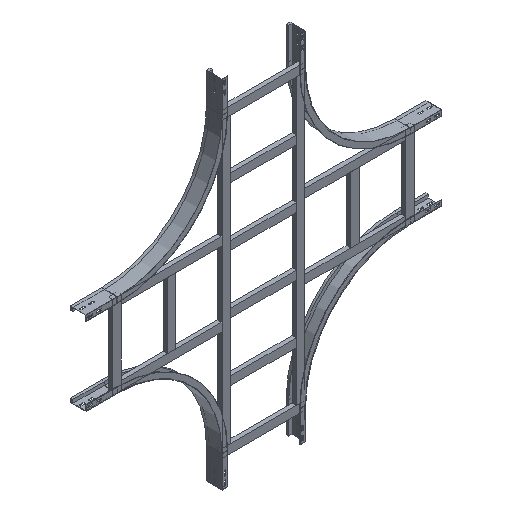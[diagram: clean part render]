
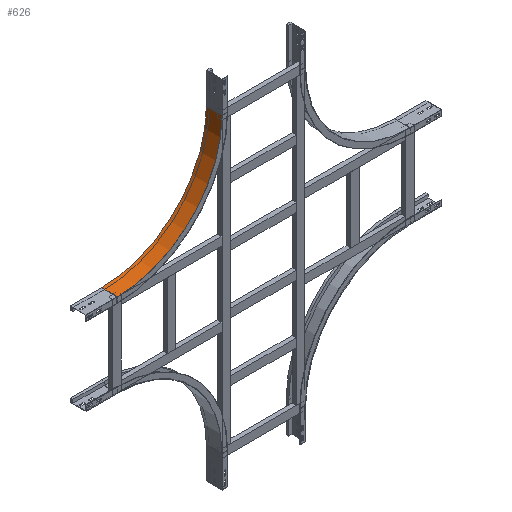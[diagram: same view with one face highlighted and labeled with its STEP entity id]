
A CAD part, isometric view. The second image highlights one B-rep face of the part: STEP entity #626.
In plain terms, the highlighted cylindrical face has radius 500 mm (diameter 1000 mm), a partial arc.
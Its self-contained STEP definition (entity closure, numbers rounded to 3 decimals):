
#25 = CARTESIAN_POINT ( 'NONE',  ( 0., 0., -150. ) ) ;
#106 = AXIS2_PLACEMENT_3D ( 'NONE', #2600, #2774, #2124 ) ;
#144 = VECTOR ( 'NONE', #1367, 1000. ) ;
#238 = CARTESIAN_POINT ( 'NONE',  ( 0., 0., -150. ) ) ;
#578 = CARTESIAN_POINT ( 'NONE',  ( 0., 75., -150. ) ) ;
#626 = ADVANCED_FACE ( 'NONE', ( #2411 ), #1263, .F. ) ;
#686 = VERTEX_POINT ( 'NONE', #2603 ) ;
#835 = CARTESIAN_POINT ( 'NONE',  ( 500., 0., -650. ) ) ;
#909 = DIRECTION ( 'NONE',  ( 0., 1., 0. ) ) ;
#1189 = ORIENTED_EDGE ( 'NONE', *, *, #2420, .T. ) ;
#1215 = CARTESIAN_POINT ( 'NONE',  ( 500., 0., -150. ) ) ;
#1217 = AXIS2_PLACEMENT_3D ( 'NONE', #1215, #2585, #1932 ) ;
#1263 = CYLINDRICAL_SURFACE ( 'NONE', #1217, 500. ) ;
#1287 = CARTESIAN_POINT ( 'NONE',  ( 500., 75., -150. ) ) ;
#1367 = DIRECTION ( 'NONE',  ( 0., 1., 0. ) ) ;
#1370 = CIRCLE ( 'NONE', #106, 500. ) ;
#1493 = EDGE_CURVE ( 'NONE', #2214, #686, #1599, .T. ) ;
#1543 = CARTESIAN_POINT ( 'NONE',  ( 500., 0., -650. ) ) ;
#1568 = LINE ( 'NONE', #1543, #2541 ) ;
#1589 = ORIENTED_EDGE ( 'NONE', *, *, #1690, .T. ) ;
#1599 = CIRCLE ( 'NONE', #2558, 500. ) ;
#1690 = EDGE_CURVE ( 'NONE', #2464, #2291, #1370, .T. ) ;
#1739 = DIRECTION ( 'NONE',  ( -1., 0., 0. ) ) ;
#1906 = ORIENTED_EDGE ( 'NONE', *, *, #1493, .F. ) ;
#1932 = DIRECTION ( 'NONE',  ( 0., 0., -1. ) ) ;
#2005 = LINE ( 'NONE', #25, #144 ) ;
#2124 = DIRECTION ( 'NONE',  ( -1., 0., 0. ) ) ;
#2214 = VERTEX_POINT ( 'NONE', #578 ) ;
#2291 = VERTEX_POINT ( 'NONE', #835 ) ;
#2411 = FACE_OUTER_BOUND ( 'NONE', #2762, .T. ) ;
#2420 = EDGE_CURVE ( 'NONE', #2291, #686, #1568, .T. ) ;
#2464 = VERTEX_POINT ( 'NONE', #238 ) ;
#2541 = VECTOR ( 'NONE', #909, 1000. ) ;
#2558 = AXIS2_PLACEMENT_3D ( 'NONE', #1287, #2622, #1739 ) ;
#2585 = DIRECTION ( 'NONE',  ( 0., -1., 0. ) ) ;
#2600 = CARTESIAN_POINT ( 'NONE',  ( 500., 0., -150. ) ) ;
#2603 = CARTESIAN_POINT ( 'NONE',  ( 500., 75., -650. ) ) ;
#2622 = DIRECTION ( 'NONE',  ( 0., -1., 0. ) ) ;
#2762 = EDGE_LOOP ( 'NONE', ( #1906, #2763, #1589, #1189 ) ) ;
#2763 = ORIENTED_EDGE ( 'NONE', *, *, #2865, .F. ) ;
#2774 = DIRECTION ( 'NONE',  ( 0., -1., 0. ) ) ;
#2865 = EDGE_CURVE ( 'NONE', #2464, #2214, #2005, .T. ) ;
